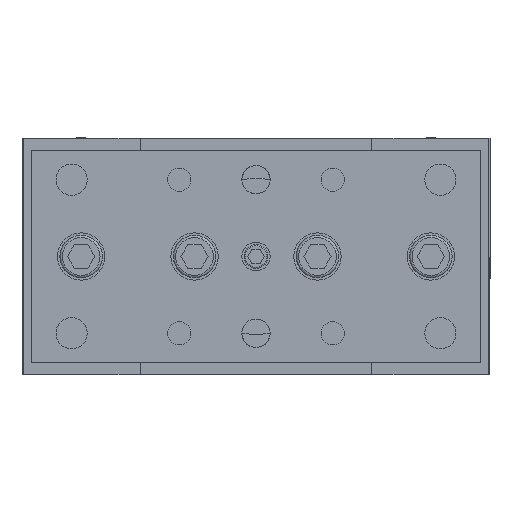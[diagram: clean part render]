
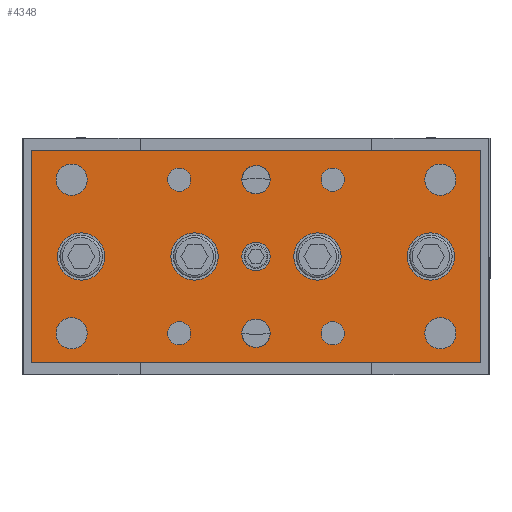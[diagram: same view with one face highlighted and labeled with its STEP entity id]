
A CAD part, front view. The second image highlights one B-rep face of the part: STEP entity #4348.
In plain terms, the highlighted planar face has unit normal (0, -1, 0).
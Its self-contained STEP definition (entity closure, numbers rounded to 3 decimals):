
#3177=CARTESIAN_POINT('',(3.,-72.0,-16.25));
#3178=VERTEX_POINT('',#3177);
#3179=CARTESIAN_POINT('',(0.,-72.0,-16.25));
#3180=DIRECTION('',(0.0,1.0,0.0));
#3181=DIRECTION('',(-1.0,0.0,0.0));
#3182=AXIS2_PLACEMENT_3D('',#3179,#3180,#3181);
#3183=CIRCLE('',#3182,3.);
#3184=EDGE_CURVE('',#3178,#3178,#3183,.T.);
#3198=CARTESIAN_POINT('',(3.,-72.0,16.25));
#3199=VERTEX_POINT('',#3198);
#3200=CARTESIAN_POINT('',(0.,-72.0,16.25));
#3201=DIRECTION('',(0.0,1.0,0.0));
#3202=DIRECTION('',(-1.0,0.0,0.0));
#3203=AXIS2_PLACEMENT_3D('',#3200,#3201,#3202);
#3204=CIRCLE('',#3203,3.);
#3205=EDGE_CURVE('',#3199,#3199,#3204,.T.);
#3700=CARTESIAN_POINT('',(3.,-72.0,0.));
#3701=VERTEX_POINT('',#3700);
#3702=CARTESIAN_POINT('',(0.0,-72.0,0.0));
#3703=DIRECTION('',(0.0,1.0,0.0));
#3704=DIRECTION('',(-1.0,0.0,0.0));
#3705=AXIS2_PLACEMENT_3D('',#3702,#3703,#3704);
#3706=CIRCLE('',#3705,3.);
#3707=EDGE_CURVE('',#3701,#3701,#3706,.T.);
#3740=CARTESIAN_POINT('',(-32.0,-72.0,0.));
#3741=VERTEX_POINT('',#3740);
#3742=CARTESIAN_POINT('',(-37.0,-72.0,0.0));
#3743=DIRECTION('',(0.0,1.0,0.0));
#3744=DIRECTION('',(-1.0,0.0,0.0));
#3745=AXIS2_PLACEMENT_3D('',#3742,#3743,#3744);
#3746=CIRCLE('',#3745,5.0);
#3747=EDGE_CURVE('',#3741,#3741,#3746,.T.);
#3780=CARTESIAN_POINT('',(-8.,-72.0,0.));
#3781=VERTEX_POINT('',#3780);
#3782=CARTESIAN_POINT('',(-13.,-72.0,0.));
#3783=DIRECTION('',(0.0,1.0,0.0));
#3784=DIRECTION('',(-1.0,0.0,0.0));
#3785=AXIS2_PLACEMENT_3D('',#3782,#3783,#3784);
#3786=CIRCLE('',#3785,5.0);
#3787=EDGE_CURVE('',#3781,#3781,#3786,.T.);
#3820=CARTESIAN_POINT('',(18.,-72.0,0.));
#3821=VERTEX_POINT('',#3820);
#3822=CARTESIAN_POINT('',(13.,-72.0,0.));
#3823=DIRECTION('',(0.0,1.0,0.0));
#3824=DIRECTION('',(-1.0,0.0,0.0));
#3825=AXIS2_PLACEMENT_3D('',#3822,#3823,#3824);
#3826=CIRCLE('',#3825,5.0);
#3827=EDGE_CURVE('',#3821,#3821,#3826,.T.);
#3860=CARTESIAN_POINT('',(42.,-72.0,0.));
#3861=VERTEX_POINT('',#3860);
#3862=CARTESIAN_POINT('',(37.,-72.0,0.));
#3863=DIRECTION('',(0.0,1.0,0.0));
#3864=DIRECTION('',(-1.0,0.0,0.0));
#3865=AXIS2_PLACEMENT_3D('',#3862,#3863,#3864);
#3866=CIRCLE('',#3865,5.0);
#3867=EDGE_CURVE('',#3861,#3861,#3866,.T.);
#4200=CARTESIAN_POINT('',(47.5,-72.0,0.));
#4201=DIRECTION('',(0.0,-1.0,0.0));
#4202=DIRECTION('',(0.0,0.0,-1.0));
#4203=AXIS2_PLACEMENT_3D('',#4200,#4201,#4202);
#4204=PLANE('',#4203);
#4205=CARTESIAN_POINT('',(47.5,-72.0,22.5));
#4206=VERTEX_POINT('',#4205);
#4207=CARTESIAN_POINT('',(-47.5,-72.0,22.5));
#4208=VERTEX_POINT('',#4207);
#4209=CARTESIAN_POINT('',(47.5,-72.0,22.5));
#4210=DIRECTION('',(-1.0,0.0,0.0));
#4211=VECTOR('',#4210,95.0);
#4212=LINE('',#4209,#4211);
#4213=EDGE_CURVE('',#4206,#4208,#4212,.T.);
#4214=ORIENTED_EDGE('',*,*,#4213,.T.);
#4215=CARTESIAN_POINT('',(-47.5,-72.0,-22.5));
#4216=VERTEX_POINT('',#4215);
#4217=CARTESIAN_POINT('',(-47.5,-72.0,22.5));
#4218=DIRECTION('',(0.0,0.0,-1.0));
#4219=VECTOR('',#4218,45.0);
#4220=LINE('',#4217,#4219);
#4221=EDGE_CURVE('',#4208,#4216,#4220,.T.);
#4222=ORIENTED_EDGE('',*,*,#4221,.T.);
#4223=CARTESIAN_POINT('',(47.5,-72.0,-22.5));
#4224=VERTEX_POINT('',#4223);
#4225=CARTESIAN_POINT('',(-47.5,-72.0,-22.5));
#4226=DIRECTION('',(1.0,0.0,0.0));
#4227=VECTOR('',#4226,95.0);
#4228=LINE('',#4225,#4227);
#4229=EDGE_CURVE('',#4216,#4224,#4228,.T.);
#4230=ORIENTED_EDGE('',*,*,#4229,.T.);
#4231=CARTESIAN_POINT('',(47.5,-72.0,-22.5));
#4232=DIRECTION('',(0.0,0.0,1.0));
#4233=VECTOR('',#4232,45.0);
#4234=LINE('',#4231,#4233);
#4235=EDGE_CURVE('',#4224,#4206,#4234,.T.);
#4236=ORIENTED_EDGE('',*,*,#4235,.T.);
#4237=EDGE_LOOP('',(#4214,#4222,#4230,#4236));
#4238=FACE_OUTER_BOUND('',#4237,.T.);
#4239=ORIENTED_EDGE('',*,*,#3184,.T.);
#4240=EDGE_LOOP('',(#4239));
#4241=FACE_BOUND('',#4240,.T.);
#4242=ORIENTED_EDGE('',*,*,#3205,.T.);
#4243=EDGE_LOOP('',(#4242));
#4244=FACE_BOUND('',#4243,.T.);
#4245=CARTESIAN_POINT('',(-13.791,-72.0,16.25));
#4246=VERTEX_POINT('',#4245);
#4247=CARTESIAN_POINT('',(-16.25,-72.0,16.25));
#4248=DIRECTION('',(0.0,1.0,0.0));
#4249=DIRECTION('',(1.0,0.0,0.0));
#4250=AXIS2_PLACEMENT_3D('',#4247,#4248,#4249);
#4251=CIRCLE('',#4250,2.459);
#4252=EDGE_CURVE('',#4246,#4246,#4251,.T.);
#4253=ORIENTED_EDGE('',*,*,#4252,.T.);
#4254=EDGE_LOOP('',(#4253));
#4255=FACE_BOUND('',#4254,.T.);
#4256=CARTESIAN_POINT('',(18.709,-72.0,16.25));
#4257=VERTEX_POINT('',#4256);
#4258=CARTESIAN_POINT('',(16.25,-72.0,16.25));
#4259=DIRECTION('',(0.0,1.0,0.0));
#4260=DIRECTION('',(1.0,0.0,0.0));
#4261=AXIS2_PLACEMENT_3D('',#4258,#4259,#4260);
#4262=CIRCLE('',#4261,2.459);
#4263=EDGE_CURVE('',#4257,#4257,#4262,.T.);
#4264=ORIENTED_EDGE('',*,*,#4263,.T.);
#4265=EDGE_LOOP('',(#4264));
#4266=FACE_BOUND('',#4265,.T.);
#4267=CARTESIAN_POINT('',(-13.791,-72.0,-16.25));
#4268=VERTEX_POINT('',#4267);
#4269=CARTESIAN_POINT('',(-16.25,-72.0,-16.25));
#4270=DIRECTION('',(0.0,1.0,0.0));
#4271=DIRECTION('',(1.0,0.0,0.0));
#4272=AXIS2_PLACEMENT_3D('',#4269,#4270,#4271);
#4273=CIRCLE('',#4272,2.459);
#4274=EDGE_CURVE('',#4268,#4268,#4273,.T.);
#4275=ORIENTED_EDGE('',*,*,#4274,.T.);
#4276=EDGE_LOOP('',(#4275));
#4277=FACE_BOUND('',#4276,.T.);
#4278=CARTESIAN_POINT('',(18.709,-72.0,-16.25));
#4279=VERTEX_POINT('',#4278);
#4280=CARTESIAN_POINT('',(16.25,-72.0,-16.25));
#4281=DIRECTION('',(0.0,1.0,0.0));
#4282=DIRECTION('',(1.0,0.0,0.0));
#4283=AXIS2_PLACEMENT_3D('',#4280,#4281,#4282);
#4284=CIRCLE('',#4283,2.459);
#4285=EDGE_CURVE('',#4279,#4279,#4284,.T.);
#4286=ORIENTED_EDGE('',*,*,#4285,.T.);
#4287=EDGE_LOOP('',(#4286));
#4288=FACE_BOUND('',#4287,.T.);
#4289=CARTESIAN_POINT('',(-42.3,-72.,16.25));
#4290=VERTEX_POINT('',#4289);
#4291=CARTESIAN_POINT('',(-39.0,-72.,16.25));
#4292=DIRECTION('',(0.0,1.0,0.0));
#4293=DIRECTION('',(1.0,0.0,0.0));
#4294=AXIS2_PLACEMENT_3D('',#4291,#4292,#4293);
#4295=CIRCLE('',#4294,3.3);
#4296=EDGE_CURVE('',#4290,#4290,#4295,.T.);
#4297=ORIENTED_EDGE('',*,*,#4296,.T.);
#4298=EDGE_LOOP('',(#4297));
#4299=FACE_BOUND('',#4298,.T.);
#4300=CARTESIAN_POINT('',(35.7,-72.,16.25));
#4301=VERTEX_POINT('',#4300);
#4302=CARTESIAN_POINT('',(39.,-72.,16.25));
#4303=DIRECTION('',(0.0,1.0,0.0));
#4304=DIRECTION('',(1.0,0.0,0.0));
#4305=AXIS2_PLACEMENT_3D('',#4302,#4303,#4304);
#4306=CIRCLE('',#4305,3.3);
#4307=EDGE_CURVE('',#4301,#4301,#4306,.T.);
#4308=ORIENTED_EDGE('',*,*,#4307,.T.);
#4309=EDGE_LOOP('',(#4308));
#4310=FACE_BOUND('',#4309,.T.);
#4311=CARTESIAN_POINT('',(-42.3,-72.,-16.25));
#4312=VERTEX_POINT('',#4311);
#4313=CARTESIAN_POINT('',(-39.0,-72.,-16.25));
#4314=DIRECTION('',(0.0,1.0,0.0));
#4315=DIRECTION('',(1.0,0.0,0.0));
#4316=AXIS2_PLACEMENT_3D('',#4313,#4314,#4315);
#4317=CIRCLE('',#4316,3.3);
#4318=EDGE_CURVE('',#4312,#4312,#4317,.T.);
#4319=ORIENTED_EDGE('',*,*,#4318,.T.);
#4320=EDGE_LOOP('',(#4319));
#4321=FACE_BOUND('',#4320,.T.);
#4322=CARTESIAN_POINT('',(35.7,-72.,-16.25));
#4323=VERTEX_POINT('',#4322);
#4324=CARTESIAN_POINT('',(39.,-72.,-16.25));
#4325=DIRECTION('',(0.0,1.0,0.0));
#4326=DIRECTION('',(1.0,0.0,0.0));
#4327=AXIS2_PLACEMENT_3D('',#4324,#4325,#4326);
#4328=CIRCLE('',#4327,3.3);
#4329=EDGE_CURVE('',#4323,#4323,#4328,.T.);
#4330=ORIENTED_EDGE('',*,*,#4329,.T.);
#4331=EDGE_LOOP('',(#4330));
#4332=FACE_BOUND('',#4331,.T.);
#4333=ORIENTED_EDGE('',*,*,#3867,.T.);
#4334=EDGE_LOOP('',(#4333));
#4335=FACE_BOUND('',#4334,.T.);
#4336=ORIENTED_EDGE('',*,*,#3827,.T.);
#4337=EDGE_LOOP('',(#4336));
#4338=FACE_BOUND('',#4337,.T.);
#4339=ORIENTED_EDGE('',*,*,#3787,.T.);
#4340=EDGE_LOOP('',(#4339));
#4341=FACE_BOUND('',#4340,.T.);
#4342=ORIENTED_EDGE('',*,*,#3747,.T.);
#4343=EDGE_LOOP('',(#4342));
#4344=FACE_BOUND('',#4343,.T.);
#4345=ORIENTED_EDGE('',*,*,#3707,.T.);
#4346=EDGE_LOOP('',(#4345));
#4347=FACE_BOUND('',#4346,.T.);
#4348=ADVANCED_FACE('',(#4238,#4241,#4244,#4255,#4266,#4277,#4288,#4299,#4310,#4321,#4332,#4335,#4338,#4341,#4344,#4347),#4204,.T.);
